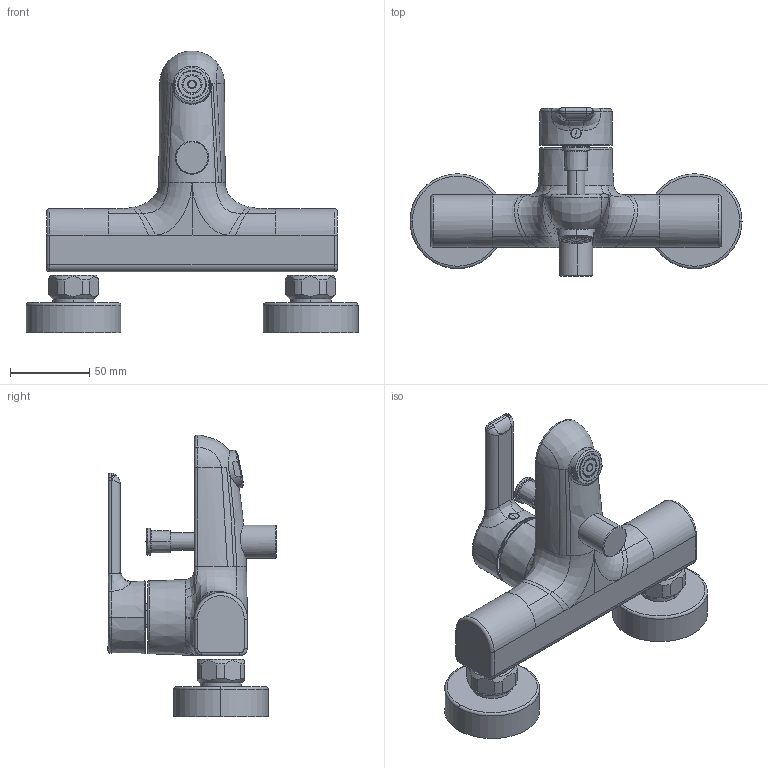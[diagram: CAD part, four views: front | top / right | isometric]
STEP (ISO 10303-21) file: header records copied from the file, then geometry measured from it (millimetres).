
FILE_DESCRIPTION((''),'2;1');
FILE_NAME('509432_AD150_SW0001','2022-02-09T15:27:03',('LF994'),(''),'CREO PARAMETRIC BY PTC INC, 2018500','CREO PARAMETRIC BY PTC INC, 2018500','');
FILE_SCHEMA(('CONFIG_CONTROL_DESIGN'));
Products named in the file (1): 509432_AD150_SW0001
Bounding box: 210 x 106.28 x 178.32 mm (x, y, z)
Volume: 309794 mm3; surface area: 128263.1 mm2
Topology: 4 solids, 7 shells, 1218 faces, 2841 edges, 1669 vertices
Faces by surface type: bspline 438, cylinder 307, plane 225, cone 144, torus 83, sphere 21
Entity records: 70350 total; most frequent: CARTESIAN_POINT 45929, ORIENTED_EDGE 5662, DIRECTION 4266, EDGE_CURVE 2831, AXIS2_PLACEMENT_3D 1779, VERTEX_POINT 1669, EDGE_LOOP 1276, FACE_OUTER_BOUND 1218
